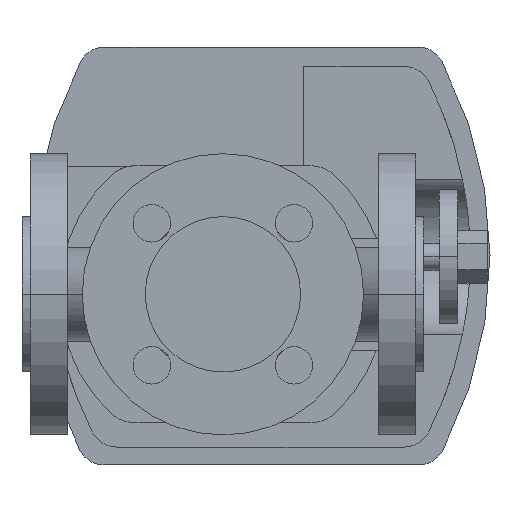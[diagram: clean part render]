
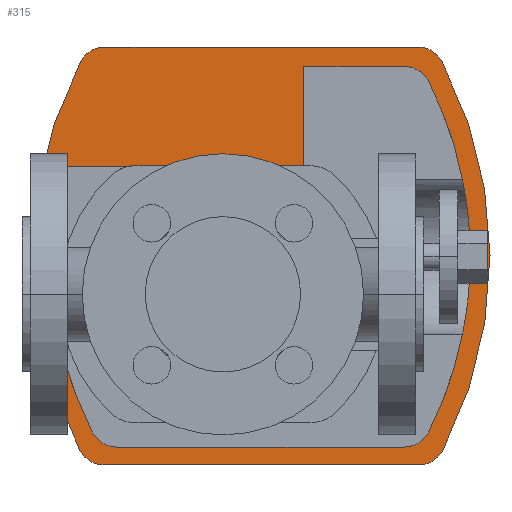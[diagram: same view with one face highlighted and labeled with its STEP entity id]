
A CAD part, front view. The second image highlights one B-rep face of the part: STEP entity #315.
In plain terms, the highlighted planar face has unit normal (0, -1, 0).
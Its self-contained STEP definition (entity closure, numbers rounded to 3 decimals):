
#315 = ADVANCED_FACE( '', ( #800, #801 ), #802, .F. );
#800 = FACE_OUTER_BOUND( '', #1340, .T. );
#801 = FACE_BOUND( '', #1341, .T. );
#802 = PLANE( '', #1342 );
#1340 = EDGE_LOOP( '', ( #2990, #2991, #2992, #2993, #2994, #2995, #2996, #2997 ) );
#1341 = EDGE_LOOP( '', ( #2998, #2999, #3000, #3001, #3002, #3003, #3004, #3005, #3006 ) );
#1342 = AXIS2_PLACEMENT_3D( '', #3007, #3008, #3009 );
#2990 = ORIENTED_EDGE( '', *, *, #3932, .F. );
#2991 = ORIENTED_EDGE( '', *, *, #3933, .F. );
#2992 = ORIENTED_EDGE( '', *, *, #3934, .F. );
#2993 = ORIENTED_EDGE( '', *, *, #3935, .F. );
#2994 = ORIENTED_EDGE( '', *, *, #3936, .F. );
#2995 = ORIENTED_EDGE( '', *, *, #3937, .F. );
#2996 = ORIENTED_EDGE( '', *, *, #3938, .F. );
#2997 = ORIENTED_EDGE( '', *, *, #3939, .F. );
#2998 = ORIENTED_EDGE( '', *, *, #3940, .T. );
#2999 = ORIENTED_EDGE( '', *, *, #3941, .T. );
#3000 = ORIENTED_EDGE( '', *, *, #3942, .F. );
#3001 = ORIENTED_EDGE( '', *, *, #3943, .F. );
#3002 = ORIENTED_EDGE( '', *, *, #3944, .F. );
#3003 = ORIENTED_EDGE( '', *, *, #3945, .F. );
#3004 = ORIENTED_EDGE( '', *, *, #3946, .F. );
#3005 = ORIENTED_EDGE( '', *, *, #3947, .F. );
#3006 = ORIENTED_EDGE( '', *, *, #3948, .F. );
#3007 = CARTESIAN_POINT( '', ( 75., 370.5, 0. ) );
#3008 = DIRECTION( '', ( 0., 1., 0. ) );
#3009 = DIRECTION( '', ( 0., 0., 1. ) );
#3932 = EDGE_CURVE( '', #4891, #4892, #4893, .T. );
#3933 = EDGE_CURVE( '', #4894, #4891, #4895, .T. );
#3934 = EDGE_CURVE( '', #4896, #4894, #4897, .T. );
#3935 = EDGE_CURVE( '', #4898, #4896, #4899, .T. );
#3936 = EDGE_CURVE( '', #4900, #4898, #4901, .T. );
#3937 = EDGE_CURVE( '', #4902, #4900, #4903, .T. );
#3938 = EDGE_CURVE( '', #4904, #4902, #4905, .T. );
#3939 = EDGE_CURVE( '', #4892, #4904, #4906, .T. );
#3940 = EDGE_CURVE( '', #4907, #4908, #4909, .T. );
#3941 = EDGE_CURVE( '', #4908, #4910, #4911, .T. );
#3942 = EDGE_CURVE( '', #4912, #4910, #4913, .T. );
#3943 = EDGE_CURVE( '', #4914, #4912, #4915, .T. );
#3944 = EDGE_CURVE( '', #4916, #4914, #4917, .T. );
#3945 = EDGE_CURVE( '', #4918, #4916, #4919, .T. );
#3946 = EDGE_CURVE( '', #4920, #4918, #4921, .T. );
#3947 = EDGE_CURVE( '', #4922, #4920, #4923, .T. );
#3948 = EDGE_CURVE( '', #4907, #4922, #4924, .T. );
#4891 = VERTEX_POINT( '', #6472 );
#4892 = VERTEX_POINT( '', #6473 );
#4893 = CIRCLE( '', #6474, 157. );
#4894 = VERTEX_POINT( '', #6475 );
#4895 = CIRCLE( '', #6476, 10.2 );
#4896 = VERTEX_POINT( '', #6477 );
#4897 = LINE( '', #6478, #6479 );
#4898 = VERTEX_POINT( '', #6480 );
#4899 = CIRCLE( '', #6481, 10.2 );
#4900 = VERTEX_POINT( '', #6482 );
#4901 = CIRCLE( '', #6483, 157. );
#4902 = VERTEX_POINT( '', #6484 );
#4903 = CIRCLE( '', #6485, 10.2 );
#4904 = VERTEX_POINT( '', #6486 );
#4905 = LINE( '', #6487, #6488 );
#4906 = CIRCLE( '', #6489, 10.2 );
#4907 = VERTEX_POINT( '', #6490 );
#4908 = VERTEX_POINT( '', #6491 );
#4909 = LINE( '', #6492, #6493 );
#4910 = VERTEX_POINT( '', #6494 );
#4911 = LINE( '', #6495, #6496 );
#4912 = VERTEX_POINT( '', #6497 );
#4913 = LINE( '', #6498, #6499 );
#4914 = VERTEX_POINT( '', #6500 );
#4915 = CIRCLE( '', #6501, 10.2 );
#4916 = VERTEX_POINT( '', #6502 );
#4917 = CIRCLE( '', #6503, 146. );
#4918 = VERTEX_POINT( '', #6504 );
#4919 = CIRCLE( '', #6505, 10.2 );
#4920 = VERTEX_POINT( '', #6506 );
#4921 = LINE( '', #6507, #6508 );
#4922 = VERTEX_POINT( '', #6509 );
#4923 = CIRCLE( '', #6510, 10.2 );
#4924 = CIRCLE( '', #6511, 146. );
#6472 = CARTESIAN_POINT( '', ( 21.581, 370.5, -58.19 ) );
#6473 = CARTESIAN_POINT( '', ( 21.915, 370.5, 86.832 ) );
#6474 = AXIS2_PLACEMENT_3D( '', #7811, #7812, #7813 );
#6475 = CARTESIAN_POINT( '', ( 30.639, 370.5, -63.7 ) );
#6476 = AXIS2_PLACEMENT_3D( '', #7814, #7815, #7816 );
#6477 = CARTESIAN_POINT( '', ( 148.061, 370.5, -63.7 ) );
#6478 = CARTESIAN_POINT( '', ( 148.061, 370.5, -63.7 ) );
#6479 = VECTOR( '', #7817, 1. );
#6480 = CARTESIAN_POINT( '', ( 157.119, 370.5, -58.19 ) );
#6481 = AXIS2_PLACEMENT_3D( '', #7818, #7819, #7820 );
#6482 = CARTESIAN_POINT( '', ( 156.785, 370.5, 86.832 ) );
#6483 = AXIS2_PLACEMENT_3D( '', #7821, #7822, #7823 );
#6484 = CARTESIAN_POINT( '', ( 147.749, 370.5, 92.3 ) );
#6485 = AXIS2_PLACEMENT_3D( '', #7824, #7825, #7826 );
#6486 = CARTESIAN_POINT( '', ( 30.951, 370.5, 92.3 ) );
#6487 = CARTESIAN_POINT( '', ( 30.951, 370.5, 92.3 ) );
#6488 = VECTOR( '', #7827, 1. );
#6489 = AXIS2_PLACEMENT_3D( '', #7828, #7829, #7830 );
#6490 = CARTESIAN_POINT( '', ( 14.619, 370.5, 47.6 ) );
#6491 = CARTESIAN_POINT( '', ( 105.2, 370.5, 47.6 ) );
#6492 = CARTESIAN_POINT( '', ( 42.35, 370.5, 47.6 ) );
#6493 = VECTOR( '', #7831, 1. );
#6494 = CARTESIAN_POINT( '', ( 105.2, 370.5, 85. ) );
#6495 = CARTESIAN_POINT( '', ( 105.2, 370.5, 23.8 ) );
#6496 = VECTOR( '', #7832, 1. );
#6497 = CARTESIAN_POINT( '', ( 142.729, 370.5, 85. ) );
#6498 = CARTESIAN_POINT( '', ( 35.271, 370.5, 85. ) );
#6499 = VECTOR( '', #7833, 1. );
#6500 = CARTESIAN_POINT( '', ( 151.85, 370.5, 79.367 ) );
#6501 = AXIS2_PLACEMENT_3D( '', #7834, #7835, #7836 );
#6502 = CARTESIAN_POINT( '', ( 151.85, 370.5, -51.367 ) );
#6503 = AXIS2_PLACEMENT_3D( '', #7837, #7838, #7839 );
#6504 = CARTESIAN_POINT( '', ( 142.729, 370.5, -57. ) );
#6505 = AXIS2_PLACEMENT_3D( '', #7840, #7841, #7842 );
#6506 = CARTESIAN_POINT( '', ( 35.271, 370.5, -57. ) );
#6507 = CARTESIAN_POINT( '', ( 142.729, 370.5, -57. ) );
#6508 = VECTOR( '', #7843, 1. );
#6509 = CARTESIAN_POINT( '', ( 26.15, 370.5, -51.367 ) );
#6510 = AXIS2_PLACEMENT_3D( '', #7844, #7845, #7846 );
#6511 = AXIS2_PLACEMENT_3D( '', #7847, #7848, #7849 );
#7811 = CARTESIAN_POINT( '', ( 161., 370.5, 14. ) );
#7812 = DIRECTION( '', ( 0., 1., 0. ) );
#7813 = DIRECTION( '', ( -0.888, 0., -0.46 ) );
#7814 = CARTESIAN_POINT( '', ( 30.639, 370.5, -53.5 ) );
#7815 = DIRECTION( '', ( 0., 1., 0. ) );
#7816 = DIRECTION( '', ( 0., 0., -1. ) );
#7817 = DIRECTION( '', ( -1., 0., 0. ) );
#7818 = CARTESIAN_POINT( '', ( 148.061, 370.5, -53.5 ) );
#7819 = DIRECTION( '', ( 0., 1., 0. ) );
#7820 = DIRECTION( '', ( 0.888, 0., -0.46 ) );
#7821 = CARTESIAN_POINT( '', ( 17.7, 370.5, 14. ) );
#7822 = DIRECTION( '', ( 0., 1., 0. ) );
#7823 = DIRECTION( '', ( 0.886, 0., 0.464 ) );
#7824 = CARTESIAN_POINT( '', ( 147.749, 370.5, 82.1 ) );
#7825 = DIRECTION( '', ( 0., 1., 0. ) );
#7826 = DIRECTION( '', ( 0., 0., 1. ) );
#7827 = DIRECTION( '', ( 1., 0., 0. ) );
#7828 = CARTESIAN_POINT( '', ( 30.951, 370.5, 82.1 ) );
#7829 = DIRECTION( '', ( 0., 1., 0. ) );
#7830 = DIRECTION( '', ( -0.886, 0., 0.464 ) );
#7831 = DIRECTION( '', ( 1., 0., 0. ) );
#7832 = DIRECTION( '', ( 0., 0., 1. ) );
#7833 = DIRECTION( '', ( -1., 0., 0. ) );
#7834 = CARTESIAN_POINT( '', ( 142.729, 370.5, 74.8 ) );
#7835 = DIRECTION( '', ( 0., -1., 0. ) );
#7836 = DIRECTION( '', ( 0., 0., 1. ) );
#7837 = CARTESIAN_POINT( '', ( 21.3, 370.5, 14. ) );
#7838 = DIRECTION( '', ( 0., -1., 0. ) );
#7839 = DIRECTION( '', ( 0.894, 0., 0.448 ) );
#7840 = CARTESIAN_POINT( '', ( 142.729, 370.5, -46.8 ) );
#7841 = DIRECTION( '', ( 0., -1., 0. ) );
#7842 = DIRECTION( '', ( 0.894, 0., -0.448 ) );
#7843 = DIRECTION( '', ( 1., 0., 0. ) );
#7844 = CARTESIAN_POINT( '', ( 35.271, 370.5, -46.8 ) );
#7845 = DIRECTION( '', ( 0., -1., 0. ) );
#7846 = DIRECTION( '', ( 0., 0., -1. ) );
#7847 = CARTESIAN_POINT( '', ( 156.7, 370.5, 14. ) );
#7848 = DIRECTION( '', ( 0., -1., 0. ) );
#7849 = DIRECTION( '', ( -0.894, 0., -0.448 ) );
